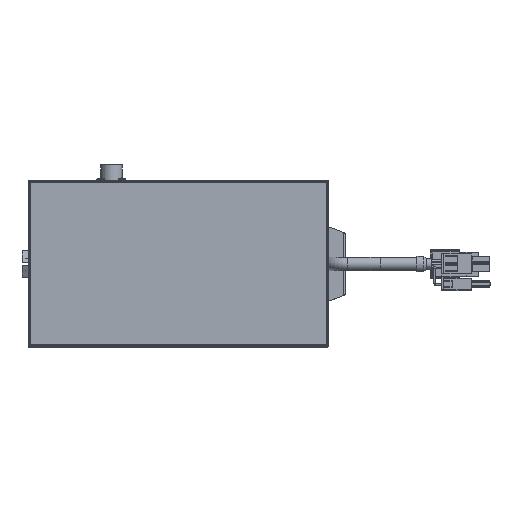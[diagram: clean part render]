
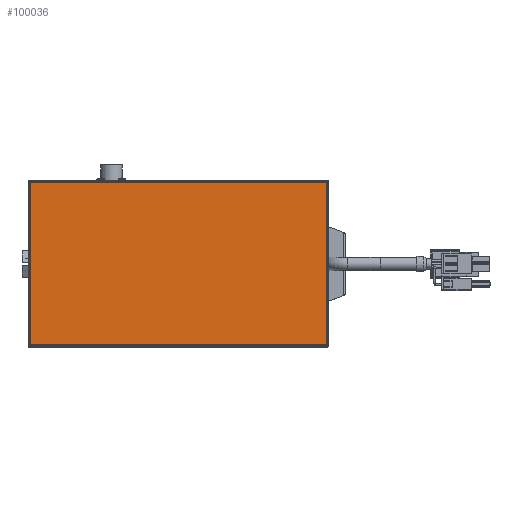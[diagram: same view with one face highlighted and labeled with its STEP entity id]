
A CAD part, top view. The second image highlights one B-rep face of the part: STEP entity #100036.
In plain terms, the highlighted planar face has unit normal (0, 0, 1).
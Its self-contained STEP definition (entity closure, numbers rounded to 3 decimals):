
#99569=CARTESIAN_POINT('',(-40.5,40.5,296.5));
#99570=VERTEX_POINT('',#99569);
#99595=CARTESIAN_POINT('',(106.5,40.5,296.5));
#99596=VERTEX_POINT('',#99595);
#99639=CARTESIAN_POINT('',(-40.5,-40.5,296.5));
#99640=VERTEX_POINT('',#99639);
#99665=CARTESIAN_POINT('',(106.5,-40.5,296.5));
#99666=VERTEX_POINT('',#99665);
#99706=CARTESIAN_POINT('',(106.5,-40.5,296.5));
#99707=DIRECTION('',(-1.,0.,0.));
#99708=VECTOR('',#99707,147.);
#99709=LINE('',#99706,#99708);
#99710=EDGE_CURVE('',#99666,#99640,#99709,.T.);
#99753=CARTESIAN_POINT('',(106.5,40.5,296.5));
#99754=DIRECTION('',(0.,-1.,0.));
#99755=VECTOR('',#99754,81.);
#99756=LINE('',#99753,#99755);
#99757=EDGE_CURVE('',#99596,#99666,#99756,.T.);
#99775=CARTESIAN_POINT('',(-40.5,-40.5,296.5));
#99776=DIRECTION('',(0.,1.,0.));
#99777=VECTOR('',#99776,81.);
#99778=LINE('',#99775,#99777);
#99779=EDGE_CURVE('',#99640,#99570,#99778,.T.);
#99829=CARTESIAN_POINT('',(-40.5,40.5,296.5));
#99830=DIRECTION('',(1.,0.,0.));
#99831=VECTOR('',#99830,147.);
#99832=LINE('',#99829,#99831);
#99833=EDGE_CURVE('',#99570,#99596,#99832,.T.);
#100025=CARTESIAN_POINT('',(33.,0.,296.5));
#100026=DIRECTION('',(-1.,0.,0.));
#100027=DIRECTION('',(0.,0.,1.));
#100028=AXIS2_PLACEMENT_3D('',#100025,#100027,#100026);
#100029=PLANE('',#100028);
#100030=ORIENTED_EDGE('',*,*,#99710,.F.);
#100031=ORIENTED_EDGE('',*,*,#99757,.F.);
#100032=ORIENTED_EDGE('',*,*,#99833,.F.);
#100033=ORIENTED_EDGE('',*,*,#99779,.F.);
#100034=EDGE_LOOP('',(#100030,#100031,#100032,#100033));
#100035=FACE_OUTER_BOUND('',#100034,.T.);
#100036=ADVANCED_FACE('F16',(#100035),#100029,.T.);
